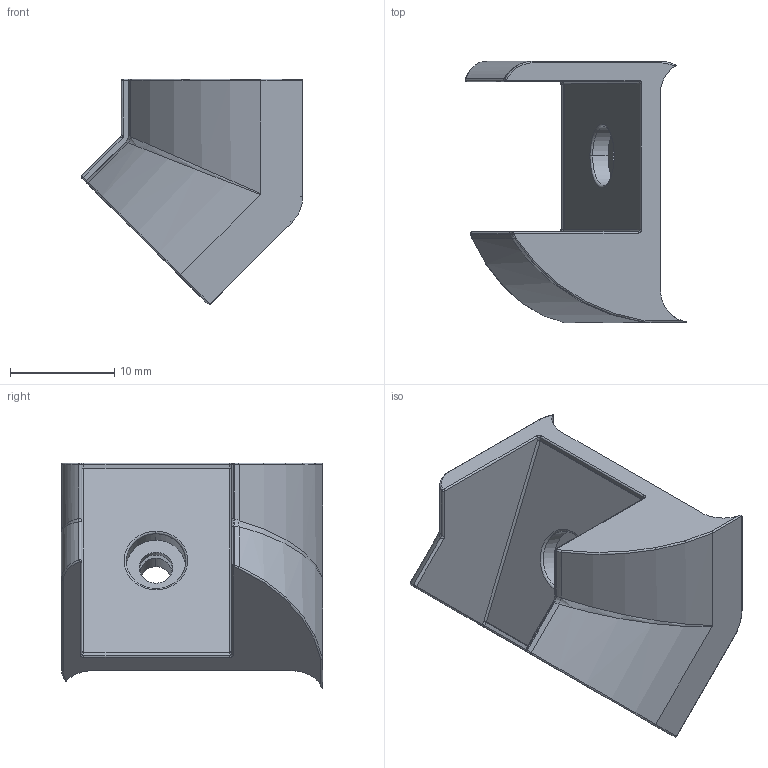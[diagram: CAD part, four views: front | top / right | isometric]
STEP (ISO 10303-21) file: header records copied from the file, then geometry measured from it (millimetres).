
FILE_DESCRIPTION (( 'STEP AP203' ), '1' );
FILE_NAME ('013.025.125.STEP', '2020-09-21T07:08:38', ( '' ), ( '' ), 'SwSTEP 2.0', 'SolidWorks 2018', '' );
FILE_SCHEMA (( 'CONFIG_CONTROL_DESIGN' ));
Length unit declared in the file: millimetre
Products named in the file (1): 013.025.125
Bounding box: 21.21 x 25 x 21.62 mm (x, y, z)
Volume: 2640.6 mm3; surface area: 2740.7 mm2
Topology: 1 solids, 1 shells, 127 faces, 305 edges, 174 vertices
Faces by surface type: cylinder 56, torus 30, plane 25, bspline 9, sphere 7
Entity records: 3964 total; most frequent: CARTESIAN_POINT 1006, DIRECTION 642, ORIENTED_EDGE 596, EDGE_CURVE 298, AXIS2_PLACEMENT_3D 262, VERTEX_POINT 174, CIRCLE 143, EDGE_LOOP 130
